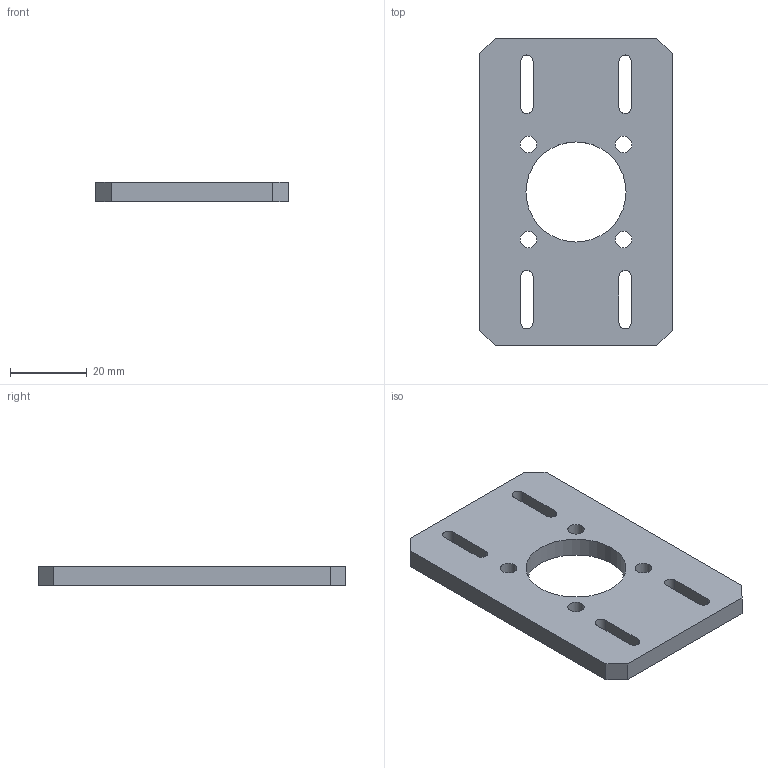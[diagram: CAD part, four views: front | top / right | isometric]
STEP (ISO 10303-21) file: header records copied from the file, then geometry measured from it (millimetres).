
FILE_DESCRIPTION(/* description */ (''),/* implementation_level */ '2;1');
FILE_NAME(/* name */ 'mount 2.step',/* time_stamp */ '2026-06-03T23:47:37+01:00',/* author */ (''),/* organization */ (''),/* preprocessor_version */ 'ST-DEVELOPER v20.1',/* originating_system */ 'Autodesk Translation Framework v15.8.0.0',/* authorisation */ '');
FILE_SCHEMA (('AUTOMOTIVE_DESIGN { 1 0 10303 214 3 1 1 }'));
Length unit declared in the file: millimetre
Products named in the file (1): mount 2
Bounding box: 50 x 80 x 5 mm (x, y, z)
Volume: 15966.1 mm3; surface area: 8999.2 mm2
Topology: 1 solids, 1 shells, 31 faces, 87 edges, 58 vertices
Faces by surface type: plane 18, cylinder 13
Full cylindrical faces by diameter (mm): 4.3 x4, 26 x1
Entity records: 1083 total; most frequent: DIRECTION 177, CARTESIAN_POINT 177, ORIENTED_EDGE 174, EDGE_CURVE 87, LINE 61, VECTOR 61, VERTEX_POINT 58, AXIS2_PLACEMENT_3D 58
